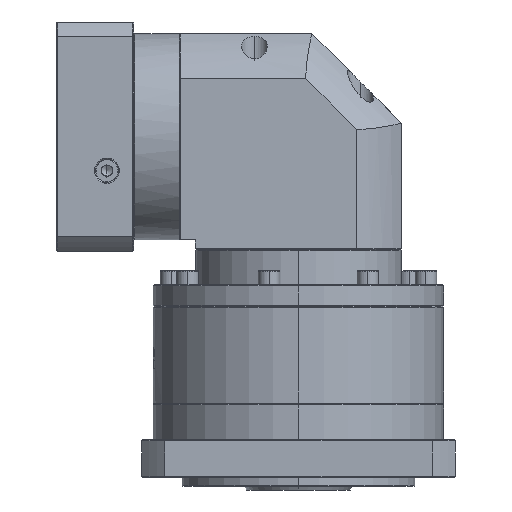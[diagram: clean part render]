
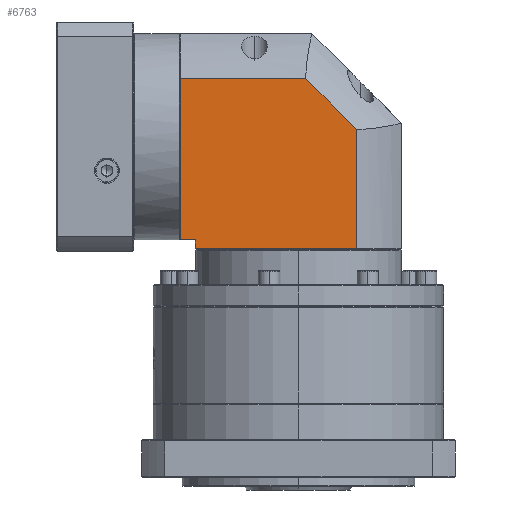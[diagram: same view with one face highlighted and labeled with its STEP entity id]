
A CAD part, left-side view. The second image highlights one B-rep face of the part: STEP entity #6763.
In plain terms, the highlighted planar face has unit normal (-1, 0, 0).
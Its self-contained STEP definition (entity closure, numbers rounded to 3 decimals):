
#2093 = FACE_OUTER_BOUND ( 'NONE', #85034, .T. ) ;
#3410 = CARTESIAN_POINT ( 'NONE',  ( -212.885, 71.768, -24.447 ) ) ;
#4651 = EDGE_CURVE ( 'NONE', #27409, #25403, #45587, .T. ) ;
#6763 = ADVANCED_FACE ( 'NONE', ( #2093 ), #50196, .F. ) ;
#11238 = ORIENTED_EDGE ( 'NONE', *, *, #132142, .F. ) ;
#12885 = DIRECTION ( 'NONE',  ( 0., 0., -1. ) ) ;
#13913 = VERTEX_POINT ( 'NONE', #30935 ) ;
#19353 = VECTOR ( 'NONE', #91643, 1000. ) ;
#24361 = VECTOR ( 'NONE', #124118, 1000. ) ;
#25338 = CARTESIAN_POINT ( 'NONE',  ( -212.885, 46.668, 70.453 ) ) ;
#25403 = VERTEX_POINT ( 'NONE', #60483 ) ;
#25814 = DIRECTION ( 'NONE',  ( 0., -1., 0. ) ) ;
#27409 = VERTEX_POINT ( 'NONE', #65436 ) ;
#30935 = CARTESIAN_POINT ( 'NONE',  ( -212.885, 71.768, 42.114 ) ) ;
#36699 = EDGE_CURVE ( 'NONE', #13913, #40089, #120702, .T. ) ;
#37593 = ORIENTED_EDGE ( 'NONE', *, *, #36699, .F. ) ;
#39417 = CARTESIAN_POINT ( 'NONE',  ( -212.885, 161.668, -19.447 ) ) ;
#40089 = VERTEX_POINT ( 'NONE', #3410 ) ;
#41925 = CARTESIAN_POINT ( 'NONE',  ( -212.885, 161.668, -24.447 ) ) ;
#45245 = EDGE_CURVE ( 'NONE', #51085, #88103, #49288, .T. ) ;
#45587 = LINE ( 'NONE', #25338, #73654 ) ;
#49288 = LINE ( 'NONE', #68179, #19353 ) ;
#50196 = PLANE ( 'NONE',  #72461 ) ;
#50683 = DIRECTION ( 'NONE',  ( 0., -1., 0. ) ) ;
#51085 = VERTEX_POINT ( 'NONE', #65744 ) ;
#53124 = EDGE_CURVE ( 'NONE', #51085, #27409, #82119, .T. ) ;
#54997 = ORIENTED_EDGE ( 'NONE', *, *, #4651, .F. ) ;
#59906 = ORIENTED_EDGE ( 'NONE', *, *, #53124, .F. ) ;
#60483 = CARTESIAN_POINT ( 'NONE',  ( -212.885, 100.106, 70.453 ) ) ;
#60755 = DIRECTION ( 'NONE',  ( 0., 0., -1. ) ) ;
#65083 = CARTESIAN_POINT ( 'NONE',  ( -212.885, 71.768, -30.947 ) ) ;
#65436 = CARTESIAN_POINT ( 'NONE',  ( -212.885, 170.068, 70.453 ) ) ;
#65744 = CARTESIAN_POINT ( 'NONE',  ( -212.885, 170.068, -19.447 ) ) ;
#66104 = LINE ( 'NONE', #67291, #84228 ) ;
#66809 = DIRECTION ( 'NONE',  ( 0., -0.707, -0.707 ) ) ;
#67291 = CARTESIAN_POINT ( 'NONE',  ( -212.885, 100.106, 70.453 ) ) ;
#68179 = CARTESIAN_POINT ( 'NONE',  ( -212.885, 161.668, -19.447 ) ) ;
#72461 = AXIS2_PLACEMENT_3D ( 'NONE', #102397, #103305, #50683 ) ;
#73654 = VECTOR ( 'NONE', #25814, 1000. ) ;
#82119 = LINE ( 'NONE', #105235, #24361 ) ;
#84228 = VECTOR ( 'NONE', #66809, 1000. ) ;
#85034 = EDGE_LOOP ( 'NONE', ( #37593, #132288, #54997, #59906, #134731, #102913, #11238 ) ) ;
#88103 = VERTEX_POINT ( 'NONE', #39417 ) ;
#91643 = DIRECTION ( 'NONE',  ( 0., -1., 0. ) ) ;
#92090 = CARTESIAN_POINT ( 'NONE',  ( -212.885, 161.668, 95.553 ) ) ;
#96328 = VECTOR ( 'NONE', #115207, 1000. ) ;
#101570 = VERTEX_POINT ( 'NONE', #41925 ) ;
#102397 = CARTESIAN_POINT ( 'NONE',  ( -212.885, 46.668, -30.947 ) ) ;
#102913 = ORIENTED_EDGE ( 'NONE', *, *, #108961, .T. ) ;
#103305 = DIRECTION ( 'NONE',  ( 1., 0., 0. ) ) ;
#105235 = CARTESIAN_POINT ( 'NONE',  ( -212.885, 170.068, -30.947 ) ) ;
#108961 = EDGE_CURVE ( 'NONE', #88103, #101570, #114114, .T. ) ;
#109287 = EDGE_CURVE ( 'NONE', #25403, #13913, #66104, .T. ) ;
#114114 = LINE ( 'NONE', #92090, #119029 ) ;
#115207 = DIRECTION ( 'NONE',  ( 0., 1., 0. ) ) ;
#119029 = VECTOR ( 'NONE', #60755, 1000. ) ;
#119361 = LINE ( 'NONE', #127174, #96328 ) ;
#120702 = LINE ( 'NONE', #65083, #132237 ) ;
#124118 = DIRECTION ( 'NONE',  ( 0., 0., 1. ) ) ;
#127174 = CARTESIAN_POINT ( 'NONE',  ( -212.885, 46.668, -24.447 ) ) ;
#132142 = EDGE_CURVE ( 'NONE', #40089, #101570, #119361, .T. ) ;
#132237 = VECTOR ( 'NONE', #12885, 1000. ) ;
#132288 = ORIENTED_EDGE ( 'NONE', *, *, #109287, .F. ) ;
#134731 = ORIENTED_EDGE ( 'NONE', *, *, #45245, .T. ) ;
